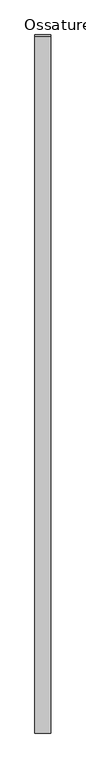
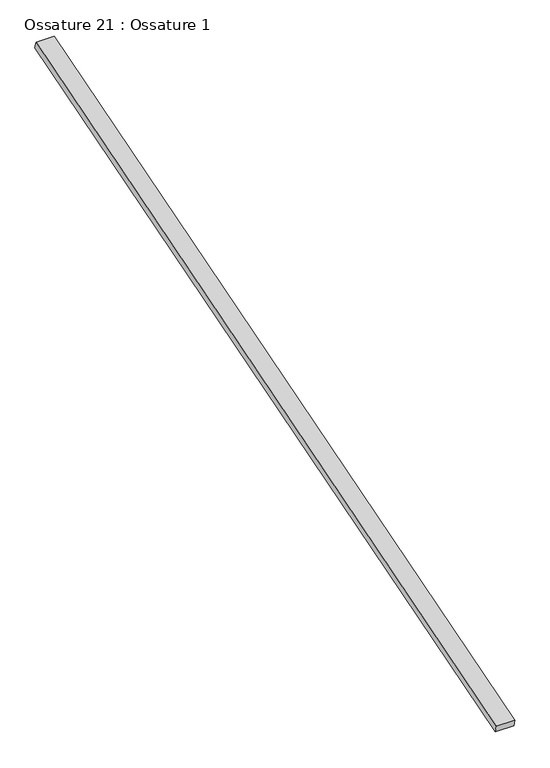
"""IFC4 building model written with IfcOpenShell, lengths in millimetres: beam geometry, Ossature 21 : Ossature 1."""

from ifc_helpers import new_model, si_unit, frame, origin, place, context, project, spatial, polyline, outline, extrude, source, transform, mapped, element, save


def ossature_21_ossature_1_4484c3b8(model_context):
    return source(origin(), model_context, "Body", "SweptSolid", [
        extrude(outline(polyline([(0.0, 0.0), (0.0, -4543.0299679), (-100.0, -4543.0299679), (-100.0, 0.0), (0.0, 0.0)])), frame((5309.4466393, -833.3913565, 8153.6336115), z_axis=(0.0, -0.28734788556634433, 0.9578262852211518), x_axis=(-1.0, 0.0, 0.0)), (0.0, 0.0, 1.0), 40.0),
    ])


if __name__ == "__main__":
    model = new_model("IFC4")
    model_context = context("Model", 3, world=origin())
    ifc_project = project(units=[si_unit("LENGTHUNIT", "METRE", prefix="MILLI")], contexts=[model_context])
    site = spatial("IfcSite", under=ifc_project)
    building = spatial("IfcBuilding", under=site)
    placement = place(None, origin())
    ossature_21_ossature_1_shape = ossature_21_ossature_1_4484c3b8(model_context)
    element("IfcBeam", 1, ObjectType="Ossature 21 : Ossature 1", at=placement, inside=building, context=model_context, shape_type="MappedRepresentation", body=[
        mapped(ossature_21_ossature_1_shape, transform((0.0, 0.0, 0.0), x_axis=(1.0, 0.0, 0.0), y_axis=(0.0, 1.0, 0.0), z_axis=(0.0, 0.0, 1.0))),
    ])
    save(model, "model.ifc")
